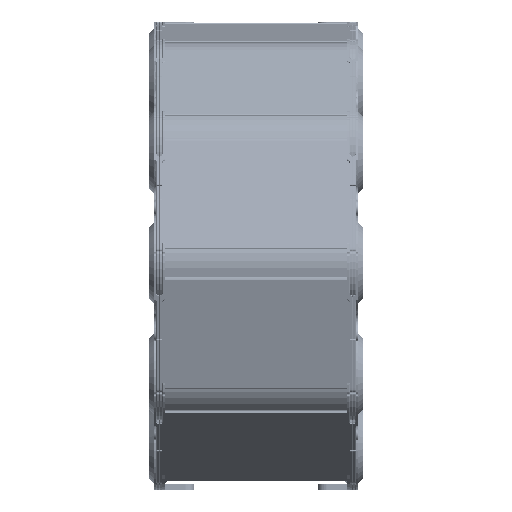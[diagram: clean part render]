
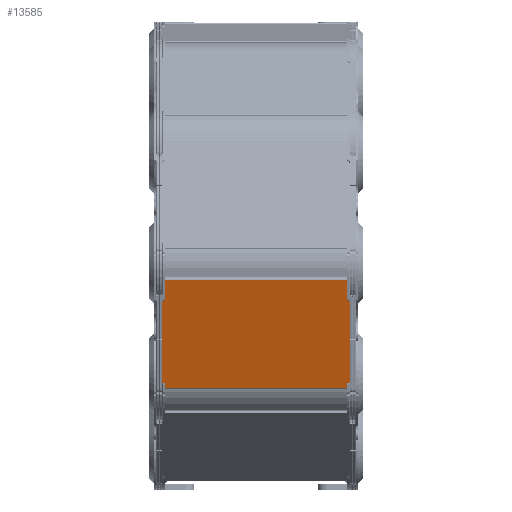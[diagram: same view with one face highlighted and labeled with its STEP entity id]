
A CAD part, front view. The second image highlights one B-rep face of the part: STEP entity #13585.
In plain terms, the highlighted planar face has unit normal (0, -0.956, -0.295) as drawn and (0, 1, 0) by its records, which use the part's own axes.
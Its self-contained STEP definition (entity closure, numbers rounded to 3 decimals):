
#13527=CARTESIAN_POINT('',(172.45,157.671,200.0));
#13528=VERTEX_POINT('',#13527);
#13536=CARTESIAN_POINT('',(172.45,157.671,0.0));
#13537=VERTEX_POINT('',#13536);
#13538=CARTESIAN_POINT('',(172.45,157.671,0.0));
#13539=DIRECTION('',(0.0,0.0,1.0));
#13540=VECTOR('',#13539,200.0);
#13541=LINE('',#13538,#13540);
#13542=EDGE_CURVE('',#13537,#13528,#13541,.T.);
#13555=CARTESIAN_POINT('',(245.46,157.671,0.0));
#13556=DIRECTION('',(0.0,1.0,0.0));
#13557=DIRECTION('',(0.0,0.0,1.0));
#13558=AXIS2_PLACEMENT_3D('',#13555,#13556,#13557);
#13559=PLANE('',#13558);
#13560=CARTESIAN_POINT('',(293.45,157.671,200.0));
#13561=VERTEX_POINT('',#13560);
#13562=CARTESIAN_POINT('',(172.45,157.671,200.0));
#13563=DIRECTION('',(1.0,0.0,0.0));
#13564=VECTOR('',#13563,121.);
#13565=LINE('',#13562,#13564);
#13566=EDGE_CURVE('',#13528,#13561,#13565,.T.);
#13567=ORIENTED_EDGE('',*,*,#13566,.T.);
#13568=CARTESIAN_POINT('',(293.45,157.671,0.0));
#13569=VERTEX_POINT('',#13568);
#13570=CARTESIAN_POINT('',(293.45,157.671,0.0));
#13571=DIRECTION('',(0.0,0.0,1.0));
#13572=VECTOR('',#13571,200.0);
#13573=LINE('',#13570,#13572);
#13574=EDGE_CURVE('',#13569,#13561,#13573,.T.);
#13575=ORIENTED_EDGE('',*,*,#13574,.F.);
#13576=CARTESIAN_POINT('',(293.45,157.671,0.0));
#13577=DIRECTION('',(-1.0,0.0,0.0));
#13578=VECTOR('',#13577,121.);
#13579=LINE('',#13576,#13578);
#13580=EDGE_CURVE('',#13569,#13537,#13579,.T.);
#13581=ORIENTED_EDGE('',*,*,#13580,.T.);
#13582=ORIENTED_EDGE('',*,*,#13542,.T.);
#13583=EDGE_LOOP('',(#13567,#13575,#13581,#13582));
#13584=FACE_OUTER_BOUND('',#13583,.T.);
#13585=ADVANCED_FACE('',(#13584),#13559,.T.);
